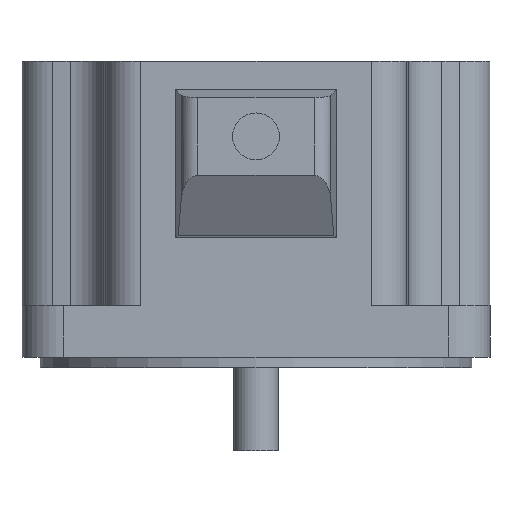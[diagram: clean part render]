
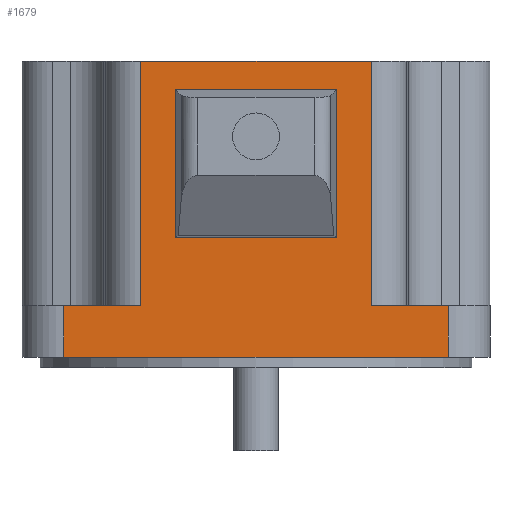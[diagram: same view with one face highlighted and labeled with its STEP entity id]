
A CAD part, front view. The second image highlights one B-rep face of the part: STEP entity #1679.
In plain terms, the highlighted planar face has unit normal (0, -1, 0).
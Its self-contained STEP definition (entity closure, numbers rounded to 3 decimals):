
#18 = CARTESIAN_POINT ( 'NONE',  ( -37., -45., 10. ) ) ;
#34 = LINE ( 'NONE', #18, #1271 ) ;
#41 = ORIENTED_EDGE ( 'NONE', *, *, #1508, .F. ) ;
#43 = VECTOR ( 'NONE', #701, 1000. ) ;
#54 = VECTOR ( 'NONE', #83, 1000. ) ;
#61 = LINE ( 'NONE', #1890, #1042 ) ;
#82 = ORIENTED_EDGE ( 'NONE', *, *, #1863, .F. ) ;
#83 = DIRECTION ( 'NONE',  ( 0., 0., 1. ) ) ;
#90 = VERTEX_POINT ( 'NONE', #342 ) ;
#111 = EDGE_CURVE ( 'NONE', #90, #1775, #205, .T. ) ;
#139 = LINE ( 'NONE', #746, #850 ) ;
#161 = VERTEX_POINT ( 'NONE', #1065 ) ;
#183 = CARTESIAN_POINT ( 'NONE',  ( -15.5, -45., 10. ) ) ;
#205 = LINE ( 'NONE', #183, #1358 ) ;
#225 = LINE ( 'NONE', #828, #944 ) ;
#232 = VERTEX_POINT ( 'NONE', #1924 ) ;
#239 = VERTEX_POINT ( 'NONE', #426 ) ;
#247 = LINE ( 'NONE', #993, #1137 ) ;
#287 = DIRECTION ( 'NONE',  ( 1., 0., 0. ) ) ;
#331 = AXIS2_PLACEMENT_3D ( 'NONE', #498, #1851, #340 ) ;
#340 = DIRECTION ( 'NONE',  ( 0., 0., 1. ) ) ;
#342 = CARTESIAN_POINT ( 'NONE',  ( -15.5, -45., 51.5 ) ) ;
#376 = DIRECTION ( 'NONE',  ( 1., 0., 0. ) ) ;
#378 = EDGE_CURVE ( 'NONE', #440, #161, #1388, .T. ) ;
#426 = CARTESIAN_POINT ( 'NONE',  ( 15.5, -45., 51.5 ) ) ;
#430 = VECTOR ( 'NONE', #720, 1000. ) ;
#440 = VERTEX_POINT ( 'NONE', #1696 ) ;
#477 = VERTEX_POINT ( 'NONE', #684 ) ;
#483 = CARTESIAN_POINT ( 'NONE',  ( 37., -45., 10. ) ) ;
#493 = DIRECTION ( 'NONE',  ( 0., 0., -1. ) ) ;
#498 = CARTESIAN_POINT ( 'NONE',  ( -45., -45., 10. ) ) ;
#512 = VECTOR ( 'NONE', #287, 1000. ) ;
#539 = VERTEX_POINT ( 'NONE', #1573 ) ;
#574 = CARTESIAN_POINT ( 'NONE',  ( -45., -45., 0. ) ) ;
#589 = ORIENTED_EDGE ( 'NONE', *, *, #378, .F. ) ;
#633 = DIRECTION ( 'NONE',  ( 0., 0., 1. ) ) ;
#659 = VERTEX_POINT ( 'NONE', #691 ) ;
#684 = CARTESIAN_POINT ( 'NONE',  ( -22.14, -45., 57. ) ) ;
#691 = CARTESIAN_POINT ( 'NONE',  ( 22.14, -45., 57. ) ) ;
#695 = EDGE_CURVE ( 'NONE', #239, #90, #874, .T. ) ;
#701 = DIRECTION ( 'NONE',  ( 1., 0., 0. ) ) ;
#708 = VECTOR ( 'NONE', #1410, 1000. ) ;
#720 = DIRECTION ( 'NONE',  ( -1., 0., 0. ) ) ;
#746 = CARTESIAN_POINT ( 'NONE',  ( 22.14, -45., 57. ) ) ;
#790 = DIRECTION ( 'NONE',  ( 0., 0., -1. ) ) ;
#800 = ORIENTED_EDGE ( 'NONE', *, *, #1322, .F. ) ;
#828 = CARTESIAN_POINT ( 'NONE',  ( 15.5, -45., 10. ) ) ;
#833 = ORIENTED_EDGE ( 'NONE', *, *, #1118, .F. ) ;
#850 = VECTOR ( 'NONE', #1834, 1000. ) ;
#874 = LINE ( 'NONE', #1495, #430 ) ;
#925 = ORIENTED_EDGE ( 'NONE', *, *, #1934, .F. ) ;
#944 = VECTOR ( 'NONE', #1299, 1000. ) ;
#949 = FACE_OUTER_BOUND ( 'NONE', #1026, .T. ) ;
#969 = VECTOR ( 'NONE', #493, 1000. ) ;
#973 = CARTESIAN_POINT ( 'NONE',  ( -45., -45., 57. ) ) ;
#993 = CARTESIAN_POINT ( 'NONE',  ( -45., -45., 10. ) ) ;
#1003 = CARTESIAN_POINT ( 'NONE',  ( -22.14, -45., 10. ) ) ;
#1019 = EDGE_CURVE ( 'NONE', #659, #1127, #139, .T. ) ;
#1021 = CARTESIAN_POINT ( 'NONE',  ( -22.14, -45., 10. ) ) ;
#1026 = EDGE_LOOP ( 'NONE', ( #833, #1052, #1658, #1950, #589, #800, #1182, #82 ) ) ;
#1042 = VECTOR ( 'NONE', #376, 1000. ) ;
#1052 = ORIENTED_EDGE ( 'NONE', *, *, #1601, .F. ) ;
#1065 = CARTESIAN_POINT ( 'NONE',  ( 37., -45., 0. ) ) ;
#1101 = PLANE ( 'NONE',  #331 ) ;
#1118 = EDGE_CURVE ( 'NONE', #1430, #477, #1620, .T. ) ;
#1122 = CARTESIAN_POINT ( 'NONE',  ( -15.5, -45., 23. ) ) ;
#1127 = VERTEX_POINT ( 'NONE', #1311 ) ;
#1134 = DIRECTION ( 'NONE',  ( 1., 0., 0. ) ) ;
#1137 = VECTOR ( 'NONE', #1134, 1000. ) ;
#1160 = ORIENTED_EDGE ( 'NONE', *, *, #111, .F. ) ;
#1172 = LINE ( 'NONE', #973, #43 ) ;
#1182 = ORIENTED_EDGE ( 'NONE', *, *, #1019, .F. ) ;
#1236 = LINE ( 'NONE', #1376, #512 ) ;
#1271 = VECTOR ( 'NONE', #633, 1000. ) ;
#1283 = FACE_BOUND ( 'NONE', #1474, .T. ) ;
#1299 = DIRECTION ( 'NONE',  ( 0., 0., 1. ) ) ;
#1311 = CARTESIAN_POINT ( 'NONE',  ( 22.14, -45., 10. ) ) ;
#1322 = EDGE_CURVE ( 'NONE', #1127, #440, #247, .T. ) ;
#1358 = VECTOR ( 'NONE', #790, 1000. ) ;
#1364 = LINE ( 'NONE', #574, #708 ) ;
#1376 = CARTESIAN_POINT ( 'NONE',  ( -45., -45., 10. ) ) ;
#1388 = LINE ( 'NONE', #483, #969 ) ;
#1394 = CARTESIAN_POINT ( 'NONE',  ( 15.5, -45., 23. ) ) ;
#1410 = DIRECTION ( 'NONE',  ( -1., 0., 0. ) ) ;
#1412 = ORIENTED_EDGE ( 'NONE', *, *, #695, .F. ) ;
#1430 = VERTEX_POINT ( 'NONE', #1003 ) ;
#1474 = EDGE_LOOP ( 'NONE', ( #925, #41, #1160, #1412 ) ) ;
#1495 = CARTESIAN_POINT ( 'NONE',  ( -45., -45., 51.5 ) ) ;
#1508 = EDGE_CURVE ( 'NONE', #1775, #1690, #61, .T. ) ;
#1573 = CARTESIAN_POINT ( 'NONE',  ( -37., -45., 0. ) ) ;
#1601 = EDGE_CURVE ( 'NONE', #232, #1430, #1236, .T. ) ;
#1620 = LINE ( 'NONE', #1021, #54 ) ;
#1658 = ORIENTED_EDGE ( 'NONE', *, *, #1716, .F. ) ;
#1679 = ADVANCED_FACE ( 'NONE', ( #1283, #949 ), #1101, .F. ) ;
#1690 = VERTEX_POINT ( 'NONE', #1394 ) ;
#1696 = CARTESIAN_POINT ( 'NONE',  ( 37., -45., 10. ) ) ;
#1716 = EDGE_CURVE ( 'NONE', #539, #232, #34, .T. ) ;
#1775 = VERTEX_POINT ( 'NONE', #1122 ) ;
#1834 = DIRECTION ( 'NONE',  ( 0., 0., -1. ) ) ;
#1851 = DIRECTION ( 'NONE',  ( 0., 1., 0. ) ) ;
#1863 = EDGE_CURVE ( 'NONE', #477, #659, #1172, .T. ) ;
#1890 = CARTESIAN_POINT ( 'NONE',  ( -45., -45., 23. ) ) ;
#1924 = CARTESIAN_POINT ( 'NONE',  ( -37., -45., 10. ) ) ;
#1934 = EDGE_CURVE ( 'NONE', #1690, #239, #225, .T. ) ;
#1948 = EDGE_CURVE ( 'NONE', #161, #539, #1364, .T. ) ;
#1950 = ORIENTED_EDGE ( 'NONE', *, *, #1948, .F. ) ;
